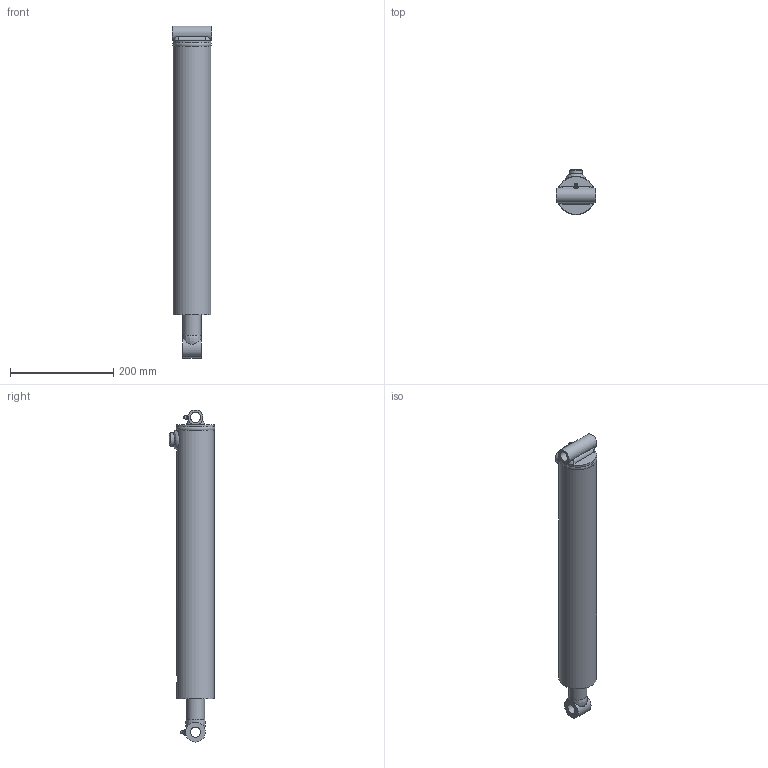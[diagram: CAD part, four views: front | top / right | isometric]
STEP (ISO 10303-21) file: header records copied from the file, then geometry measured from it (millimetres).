
FILE_DESCRIPTION((''),'2;1');
FILE_NAME('C:\Vault\Workspace\RefDataCylinders\Standards\PMC-5400\PMC-5416.stp','2010-04-08T13:06:18',('kneifld'),(''),'Autodesk Inventor 2010','Autodesk Inventor 2010','');
FILE_SCHEMA(('AUTOMOTIVE_DESIGN { 1 0 10303 214 1 1 1 1 }'));
Length unit declared in the file: inch
Products named in the file (18): PMC-5416; 061300046; 051300071; 161300005; 200014303; 210300144; B&TWeldVest; PortWeldVest; X-tube Weld; 081300356; 020700170; 010700553; 210300202; Rod Weld; 220000208; 270010002; 270010020; 230001250
Assembly tree (17 placements, depth 3):
  PMC-5416
    061300046
      051300071
      161300005
      200014303
      210300144
      B&TWeldVest
      PortWeldVest
      X-tube Weld
    081300356
    020700170
      010700553
      210300202
      Rod Weld
    220000208
    270010002
    270010020
    230001250
Bounding box: 76.2 x 87.97 x 642.92 mm (x, y, z)
Volume: 1267074.4 mm3; surface area: 370301.2 mm2
Topology: 15 solids, 15 shells, 170 faces, 366 edges, 231 vertices
Faces by surface type: plane 65, cylinder 46, cone 31, bspline 19, torus 7, sphere 2
Full cylindrical faces by diameter (mm): 1.524 x1, 2.794 x2, 6.074 x1, 9.525 x1, 18.999 x1, 19.558 x1, 19.837 x1, 19.844 x1, 25.4 x2, 28.575 x1, 34.925 x1, 35.001 x2, 38.1 x1, 38.71 x1, 41.275 x2, 42.85 x1, 48.768 x1, 54.864 x1, 58.725 x1, 63.246 x2, 63.5 x2, 65.088 x2, 67.259 x1, 73.025 x2
Entity records: 6013 total; most frequent: CARTESIAN_POINT 2265, DIRECTION 709, ORIENTED_EDGE 542, AXIS2_PLACEMENT_3D 327, EDGE_LOOP 286, EDGE_CURVE 271, VERTEX_POINT 215, FACE_OUTER_BOUND 170
